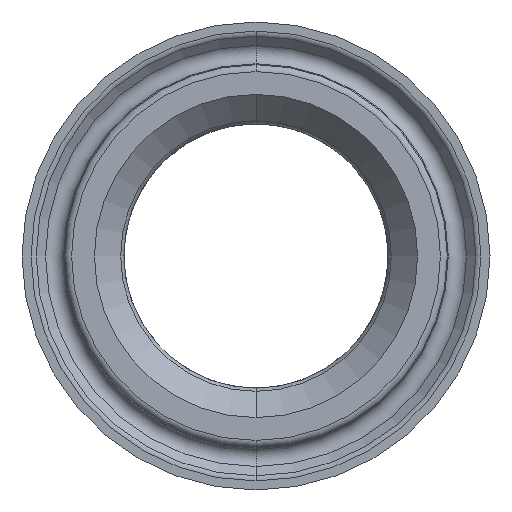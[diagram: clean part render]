
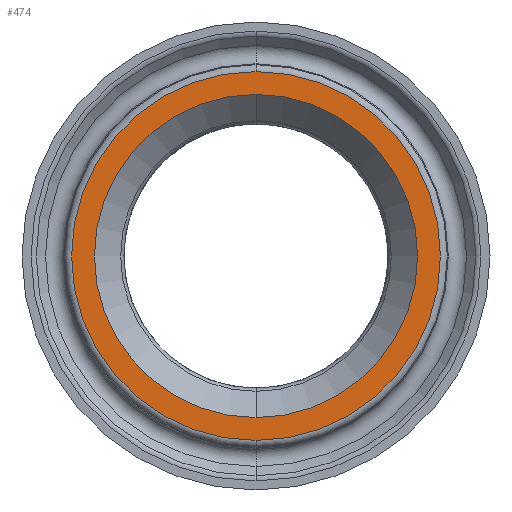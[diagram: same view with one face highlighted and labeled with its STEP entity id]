
A CAD part, front view. The second image highlights one B-rep face of the part: STEP entity #474.
In plain terms, the highlighted planar face has unit normal (0, -1, 0).
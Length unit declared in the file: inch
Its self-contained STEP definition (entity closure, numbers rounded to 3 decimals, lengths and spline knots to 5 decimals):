
#72 = CARTESIAN_POINT ( 'NONE',  ( 0., 0., -0.78178 ) ) ;
#281 = DIRECTION ( 'NONE',  ( 0., 0., -1. ) ) ;
#287 = EDGE_CURVE ( 'NONE', #1558, #508, #1445, .T. ) ;
#289 = DIRECTION ( 'NONE',  ( 0., -1., 0. ) ) ;
#306 = CARTESIAN_POINT ( 'NONE',  ( 0., 0., 0.78178 ) ) ;
#327 = DIRECTION ( 'NONE',  ( 0., 0., -1. ) ) ;
#430 = CARTESIAN_POINT ( 'NONE',  ( 0., 0., 0. ) ) ;
#474 = ADVANCED_FACE ( 'NONE', ( #730, #1129 ), #1955, .F. ) ;
#494 = CIRCLE ( 'NONE', #1140, 0.685 ) ;
#508 = VERTEX_POINT ( 'NONE', #306 ) ;
#529 = AXIS2_PLACEMENT_3D ( 'NONE', #791, #626, #618 ) ;
#541 = AXIS2_PLACEMENT_3D ( 'NONE', #1382, #1080, #1074 ) ;
#557 = EDGE_CURVE ( 'NONE', #508, #1558, #949, .T. ) ;
#567 = EDGE_CURVE ( 'NONE', #880, #1327, #1671, .T. ) ;
#577 = AXIS2_PLACEMENT_3D ( 'NONE', #822, #1116, #327 ) ;
#618 = DIRECTION ( 'NONE',  ( 0., 0., -1. ) ) ;
#626 = DIRECTION ( 'NONE',  ( 0., -1., 0. ) ) ;
#629 = EDGE_LOOP ( 'NONE', ( #1627, #844 ) ) ;
#685 = DIRECTION ( 'NONE',  ( 0., -1., 0. ) ) ;
#730 = FACE_BOUND ( 'NONE', #629, .T. ) ;
#791 = CARTESIAN_POINT ( 'NONE',  ( 0., 0., 0. ) ) ;
#822 = CARTESIAN_POINT ( 'NONE',  ( 0., 0., 0. ) ) ;
#844 = ORIENTED_EDGE ( 'NONE', *, *, #1606, .F. ) ;
#880 = VERTEX_POINT ( 'NONE', #1918 ) ;
#903 = EDGE_LOOP ( 'NONE', ( #1907, #1851 ) ) ;
#949 = CIRCLE ( 'NONE', #529, 0.78178 ) ;
#1020 = CARTESIAN_POINT ( 'NONE',  ( 0., 0., 0.685 ) ) ;
#1074 = DIRECTION ( 'NONE',  ( 0., 0., 1. ) ) ;
#1080 = DIRECTION ( 'NONE',  ( 0., 1., 0. ) ) ;
#1116 = DIRECTION ( 'NONE',  ( 0., -1., 0. ) ) ;
#1129 = FACE_OUTER_BOUND ( 'NONE', #903, .T. ) ;
#1140 = AXIS2_PLACEMENT_3D ( 'NONE', #1568, #685, #1710 ) ;
#1327 = VERTEX_POINT ( 'NONE', #1020 ) ;
#1382 = CARTESIAN_POINT ( 'NONE',  ( -0.78178, 0., 0. ) ) ;
#1445 = CIRCLE ( 'NONE', #577, 0.78178 ) ;
#1558 = VERTEX_POINT ( 'NONE', #72 ) ;
#1568 = CARTESIAN_POINT ( 'NONE',  ( 0., 0., 0. ) ) ;
#1606 = EDGE_CURVE ( 'NONE', #1327, #880, #494, .T. ) ;
#1627 = ORIENTED_EDGE ( 'NONE', *, *, #567, .F. ) ;
#1671 = CIRCLE ( 'NONE', #1948, 0.685 ) ;
#1710 = DIRECTION ( 'NONE',  ( 0., 0., -1. ) ) ;
#1851 = ORIENTED_EDGE ( 'NONE', *, *, #557, .T. ) ;
#1907 = ORIENTED_EDGE ( 'NONE', *, *, #287, .T. ) ;
#1918 = CARTESIAN_POINT ( 'NONE',  ( 0., 0., -0.685 ) ) ;
#1948 = AXIS2_PLACEMENT_3D ( 'NONE', #430, #289, #281 ) ;
#1955 = PLANE ( 'NONE',  #541 ) ;
